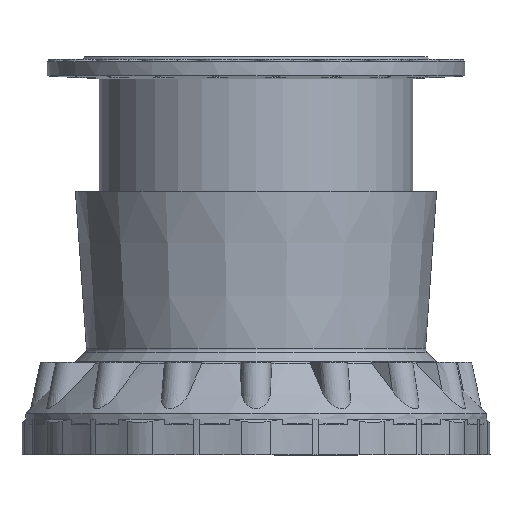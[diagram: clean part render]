
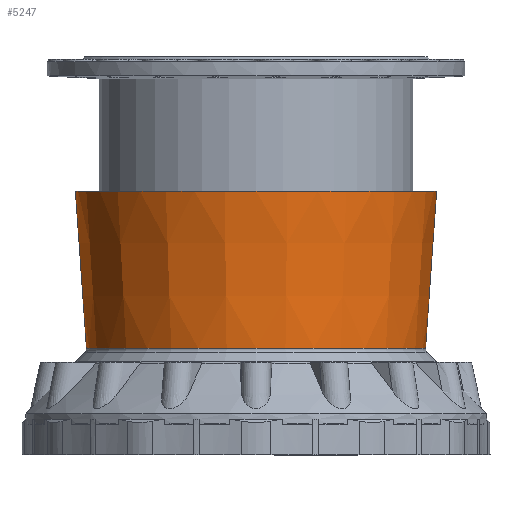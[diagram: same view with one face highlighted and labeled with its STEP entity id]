
A CAD part, front view. The second image highlights one B-rep face of the part: STEP entity #5247.
In plain terms, the highlighted conical face has half-angle 4 degrees and reference radius 276.227 mm.
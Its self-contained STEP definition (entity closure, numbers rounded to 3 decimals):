
#617 = CARTESIAN_POINT ( 'NONE',  ( 0., 0., -120.605 ) ) ;
#618 = DIRECTION ( 'NONE',  ( 0., 0., 1. ) ) ;
#619 = DIRECTION ( 'NONE',  ( 1., 0., 0. ) ) ;
#989 = DIRECTION ( 'NONE',  ( 1., 0., 0. ) ) ;
#991 = CARTESIAN_POINT ( 'NONE',  ( 0., 0., 0. ) ) ;
#992 = DIRECTION ( 'NONE',  ( 0., 0., 1. ) ) ;
#1352 = AXIS2_PLACEMENT_3D ( 'NONE', #617, #618, #619 ) ;
#1418 = AXIS2_PLACEMENT_3D ( 'NONE', #991, #992, #989 ) ;
#3141 = EDGE_CURVE ( 'NONE', #7886, #7886, #6002, .T. ) ;
#5160 = EDGE_CURVE ( 'NONE', #7898, #7898, #6665, .T. ) ;
#5247 = ADVANCED_FACE ( 'NONE', ( #6804, #6802 ), #6809, .T. ) ;
#6002 = CIRCLE ( 'NONE', #19305, 285.122 ) ;
#6665 = CIRCLE ( 'NONE', #1352, 267.794 ) ;
#6802 = FACE_OUTER_BOUND ( 'NONE', #11131, .T. ) ;
#6804 = FACE_BOUND ( 'NONE', #11117, .T. ) ;
#6809 = CONICAL_SURFACE ( 'NONE', #1418, 276.227, 0.07 ) ;
#7886 = VERTEX_POINT ( 'NONE', #8269 ) ;
#7898 = VERTEX_POINT ( 'NONE', #8281 ) ;
#8269 = CARTESIAN_POINT ( 'NONE',  ( 285.122, 0., 127.2 ) ) ;
#8281 = CARTESIAN_POINT ( 'NONE',  ( 267.794, 0., -120.605 ) ) ;
#10089 = ORIENTED_EDGE ( 'NONE', *, *, #5160, .T. ) ;
#10091 = ORIENTED_EDGE ( 'NONE', *, *, #3141, .F. ) ;
#11117 = EDGE_LOOP ( 'NONE', ( #10089 ) ) ;
#11131 = EDGE_LOOP ( 'NONE', ( #10091 ) ) ;
#11623 = CARTESIAN_POINT ( 'NONE',  ( 0., 0., 127.2 ) ) ;
#11624 = DIRECTION ( 'NONE',  ( 0., 0., 1. ) ) ;
#11625 = DIRECTION ( 'NONE',  ( 1., 0., 0. ) ) ;
#19305 = AXIS2_PLACEMENT_3D ( 'NONE', #11623, #11624, #11625 ) ;
